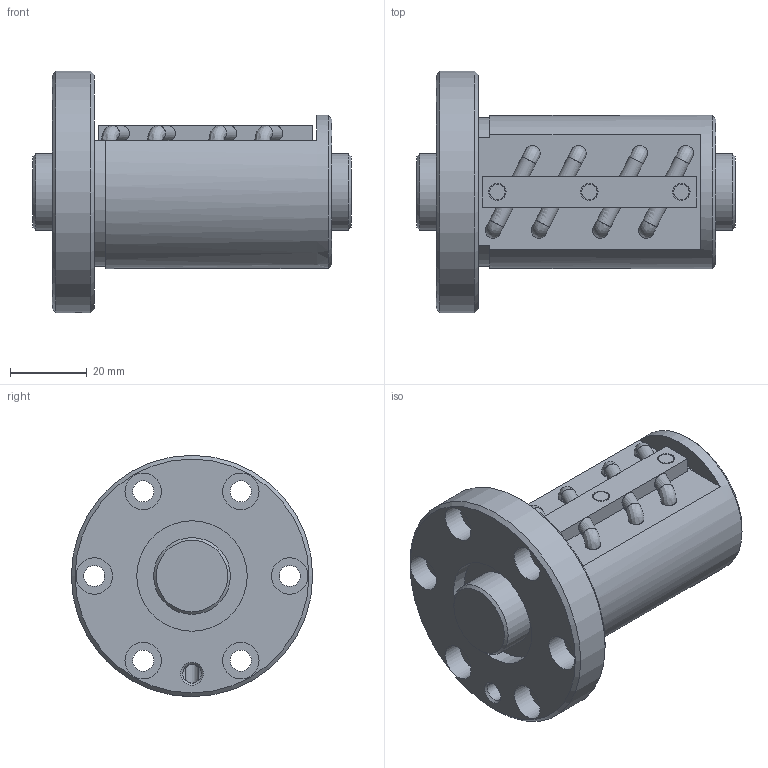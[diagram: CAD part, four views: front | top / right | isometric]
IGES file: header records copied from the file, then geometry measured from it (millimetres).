
Start section: Data from Parasolid IGES Translator 26.0.171, Copyright(c) 2006 Siemens PLM Software. All Rights Reserved.
Global section: file name: BIF2004V-10RRG0+83LC0_000.igs; native system: By Siemens PLM Incorporated; preprocessor: XPlus GENERIC/IGES 26.0.171; author: Noname; organization: Noname; date: 20240715.081637; units: millimetre
Bounding box: 83 x 63 x 63 mm (x, y, z)
Surface area: 28764.3 mm2 (no closed solid volume)
Topology: 0 solids, 0 shells, 130 faces, 660 edges, 613 vertices
Faces by surface type: revolution 85, extrusion 45
